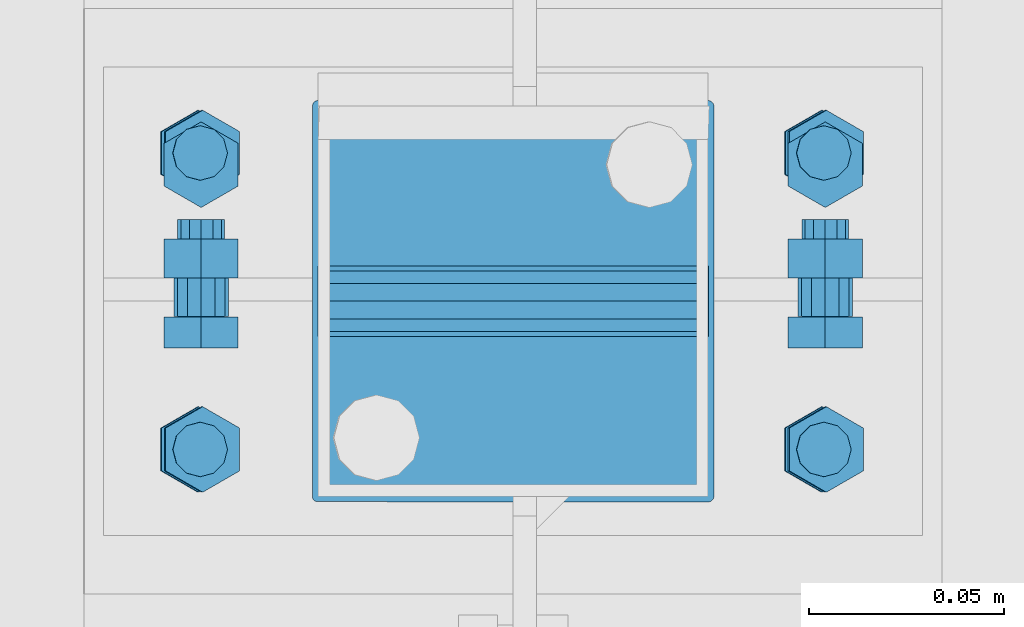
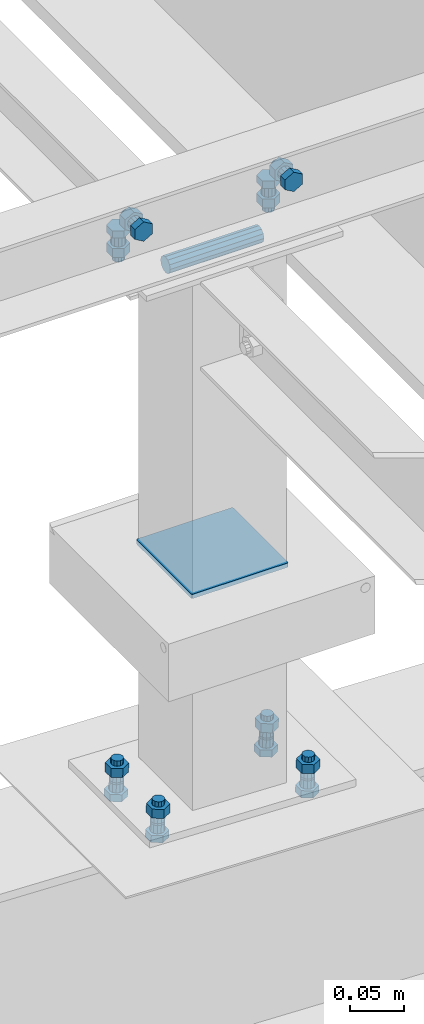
# One storey, part 17 of 3134: 6 mechanical fasteners, 3 elements without a shape of their own.
"""IFC2X3 building model written with IfcOpenShell, lengths in millimetres."""

from ifc_helpers import new_model, si_unit, frame, origin_with_axes, place, context, subcontext, project, spatial, faceted_brep, source, transform, mapped, material, type_object, element, aggregate, save


model = new_model("IFC2X3")

# Units and contexts
model_context = context("Model", 3, precision=1e-05, world=origin_with_axes())
body_context = subcontext(model_context, "Body", "Model", "MODEL_VIEW")
ifc_project = project(units=[si_unit("LENGTHUNIT", "METRE", prefix="MILLI"), si_unit("AREAUNIT", "SQUARE_METRE"), si_unit("VOLUMEUNIT", "CUBIC_METRE"), si_unit("MASSUNIT", "GRAM", prefix="KILO"), si_unit("TIMEUNIT", "SECOND"), si_unit("PLANEANGLEUNIT", "RADIAN"), si_unit("SOLIDANGLEUNIT", "STERADIAN"), si_unit("THERMODYNAMICTEMPERATUREUNIT", "DEGREE_CELSIUS"), si_unit("LUMINOUSINTENSITYUNIT", "LUMEN")], contexts=[model_context])

# Site, building, storey
site_placement = place(None, origin_with_axes())
site = spatial("IfcSite", under=ifc_project, at=site_placement, CompositionType="ELEMENT")
building_placement = place(site_placement, origin_with_axes())
building = spatial("IfcBuilding", under=site, at=building_placement, Name="Undefined", CompositionType="ELEMENT")
storey_placement = place(building_placement, origin_with_axes())
storey = spatial("IfcBuildingStorey", under=building, at=storey_placement, Name="Undefined", CompositionType="ELEMENT", Elevation=0.0)

# Assembly, mechanical fastener
assembly_1_placement = place(storey_placement, origin_with_axes())
assembly_1 = element("IfcElementAssembly", 1, at=assembly_1_placement, inside=storey, AssemblyPlace="NOTDEFINED", PredefinedType="RIGID_FRAME")
ifc_material_1 = material(Name="8.8")
mechanical_fastener_type = type_object("IfcMechanicalFastenerType", Name="Bolt assembly")
shared_shape_1 = source(origin_with_axes(), body_context, "Body", "Brep", [
    faceted_brep([(10.9696551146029, -14.0, 0.0), (5.48482755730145, -14.0, 9.5), (-5.48482755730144, -14.0, 9.5), (-10.9696551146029, -14.0, 1.34339530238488e-15), (-5.48482755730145, -14.0, -9.5), (5.48482755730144, -14.0, -9.50000000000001), (5.48482755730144, -6.0, -9.50000000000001), (-5.48482755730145, -6.0, -9.5), (-10.9696551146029, -6.0, 1.34339530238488e-15), (-5.48482755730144, -6.0, 9.5), (5.48482755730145, -6.0, 9.5), (10.9696551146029, -6.0, 0.0), (6.0, -6.0, 0.0), (5.19615242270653, -6.0, 3.00000000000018), (2.99999999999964, -6.0, 5.19615242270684), (-6.21801588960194e-13, -6.0, 6.0), (-3.00000000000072, -6.0, 5.19615242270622), (-5.19615242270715, -6.0, 2.9999999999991), (-6.0, -6.0, -1.24360317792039e-12), (-5.19615242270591, -6.0, -3.00000000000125), (-2.99999999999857, -6.0, -5.19615242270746), (1.85874342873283e-12, -6.0, -6.0), (3.00000000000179, -6.0, -5.1961524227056), (5.19615242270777, -6.0, -2.99999999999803), (5.19615242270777, 24.0, -2.99999999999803), (3.00000000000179, 24.0, -5.1961524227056), (1.85874342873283e-12, 24.0, -6.0), (-2.99999999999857, 24.0, -5.19615242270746), (-5.19615242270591, 24.0, -3.00000000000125), (-6.0, 24.0, -1.24360317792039e-12), (-5.19615242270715, 24.0, 2.9999999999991), (-3.00000000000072, 24.0, 5.19615242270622), (-6.21801588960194e-13, 24.0, 6.0), (2.99999999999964, 24.0, 5.19615242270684), (5.19615242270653, 24.0, 3.00000000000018), (6.0, 24.0, 0.0), (10.9696551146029, 6.00000000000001, 0.0), (5.48482755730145, 6.00000000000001, 9.5), (-5.48482755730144, 6.00000000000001, 9.5), (-10.9696551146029, 6.00000000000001, 1.34339530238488e-15), (-5.48482755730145, 6.00000000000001, -9.5), (5.48482755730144, 6.00000000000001, -9.50000000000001), (5.48482755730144, 16.0, -9.50000000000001), (-5.48482755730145, 16.0, -9.5), (-10.9696551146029, 16.0, 1.34339530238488e-15), (-5.48482755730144, 16.0, 9.5), (5.48482755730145, 16.0, 9.5), (10.9696551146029, 16.0, 0.0)], [[[0, 1, 2, 3, 4, 5]], [[6, 7, 8, 9, 10, 11]], [[0, 11, 10, 1]], [[1, 10, 9, 2]], [[2, 9, 8, 3]], [[3, 8, 7, 4]], [[4, 7, 6, 5]], [[5, 6, 11, 0]], [[12, 13, 14, 15, 16, 17, 18, 19, 20, 21, 22, 23]], [[24, 25, 26, 27, 28, 29, 30, 31, 32, 33, 34, 35]], [[12, 35, 34, 13]], [[13, 34, 33, 14]], [[14, 33, 32, 15]], [[15, 32, 31, 16]], [[16, 31, 30, 17]], [[17, 30, 29, 18]], [[18, 29, 28, 19]], [[19, 28, 27, 20]], [[20, 27, 26, 21]], [[21, 26, 25, 22]], [[22, 25, 24, 23]], [[23, 24, 35, 12]], [[36, 37, 38, 39, 40, 41]], [[42, 43, 44, 45, 46, 47]], [[36, 47, 46, 37]], [[37, 46, 45, 38]], [[38, 45, 44, 39]], [[39, 44, 43, 40]], [[40, 43, 42, 41]], [[41, 42, 47, 36]]]),
    faceted_brep([(7.0, -0.1, 0.0), (6.06217782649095, -0.1, 3.50000000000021), (3.49999999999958, -0.1, 6.06217782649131), (-7.25435187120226e-13, -0.1, 7.0), (-3.50000000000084, -0.1, 6.06217782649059), (-6.06217782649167, -0.1, 3.49999999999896), (-7.0, -0.1, -1.45087037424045e-12), (-6.06217782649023, -0.1, -3.50000000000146), (-3.49999999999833, -0.1, -6.06217782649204), (2.1685340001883e-12, -0.1, -7.0), (3.50000000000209, -0.1, -6.06217782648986), (6.0621778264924, -0.1, -3.4999999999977), (6.0621778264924, 6.00000000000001, -3.4999999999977), (3.50000000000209, 6.00000000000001, -6.06217782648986), (2.1685340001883e-12, 6.00000000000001, -7.0), (-3.49999999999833, 6.00000000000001, -6.06217782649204), (-6.06217782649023, 6.00000000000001, -3.50000000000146), (-7.0, 6.00000000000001, -1.45087037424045e-12), (-6.06217782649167, 6.00000000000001, 3.49999999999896), (-3.50000000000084, 6.00000000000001, 6.06217782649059), (-7.25435187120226e-13, 6.00000000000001, 7.0), (3.49999999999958, 6.00000000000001, 6.06217782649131), (6.06217782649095, 6.00000000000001, 3.50000000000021), (7.0, 6.00000000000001, 0.0), (7.0, -5.9, 0.0), (6.06217782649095, -5.9, 3.50000000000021), (3.49999999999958, -5.9, 6.06217782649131), (-7.25435187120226e-13, -5.9, 7.0), (-3.50000000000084, -5.9, 6.06217782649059), (-6.06217782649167, -5.9, 3.49999999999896), (-7.0, -5.9, -1.45087037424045e-12), (-6.06217782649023, -5.9, -3.50000000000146), (-3.49999999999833, -5.9, -6.06217782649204), (2.1685340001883e-12, -5.9, -7.0), (3.50000000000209, -5.9, -6.06217782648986), (6.0621778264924, -5.9, -3.4999999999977), (6.0621778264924, 0.0999999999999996, -3.4999999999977), (3.50000000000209, 0.0999999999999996, -6.06217782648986), (2.1685340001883e-12, 0.0999999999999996, -7.0), (-3.49999999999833, 0.0999999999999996, -6.06217782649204), (-6.06217782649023, 0.0999999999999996, -3.50000000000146), (-7.0, 0.0999999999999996, -1.45087037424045e-12), (-6.06217782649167, 0.0999999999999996, 3.49999999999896), (-3.50000000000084, 0.0999999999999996, 6.06217782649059), (-7.25435187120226e-13, 0.0999999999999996, 7.0), (3.49999999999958, 0.0999999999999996, 6.06217782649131), (6.06217782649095, 0.0999999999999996, 3.50000000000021), (7.0, 0.0999999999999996, 0.0)], [[[0, 1, 2, 3, 4, 5, 6, 7, 8, 9, 10, 11]], [[12, 13, 14, 15, 16, 17, 18, 19, 20, 21, 22, 23]], [[0, 23, 22, 1]], [[1, 22, 21, 2]], [[2, 21, 20, 3]], [[3, 20, 19, 4]], [[4, 19, 18, 5]], [[5, 18, 17, 6]], [[6, 17, 16, 7]], [[7, 16, 15, 8]], [[8, 15, 14, 9]], [[9, 14, 13, 10]], [[10, 13, 12, 11]], [[11, 12, 23, 0]], [[24, 25, 26, 27, 28, 29, 30, 31, 32, 33, 34, 35]], [[36, 37, 38, 39, 40, 41, 42, 43, 44, 45, 46, 47]], [[24, 47, 46, 25]], [[25, 46, 45, 26]], [[26, 45, 44, 27]], [[27, 44, 43, 28]], [[28, 43, 42, 29]], [[29, 42, 41, 30]], [[30, 41, 40, 31]], [[31, 40, 39, 32]], [[32, 39, 38, 33]], [[33, 38, 37, 34]], [[34, 37, 36, 35]], [[35, 36, 47, 24]]]),
])
mechanical_fastener_1_placement = place(assembly_1_placement, frame((8340.0, 13095.0, 4365.0), z_axis=(1.0, 0.0, 0.0), x_axis=(0.0, -1.0, 0.0)))
mechanical_fastener_1 = element("IfcMechanicalFastener", 2, at=mechanical_fastener_1_placement, type_object=mechanical_fastener_type, material=ifc_material_1, Name="Bolt assembly", NominalDiameter=12.0, NominalLength=30.0, context=body_context, shape_type="MappedRepresentation", body=[
    mapped(shared_shape_1, transform((0.0, -5.32963895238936e-10, -79.9999999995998))),
    mapped(shared_shape_1, transform((0.0, 5.3114490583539e-10, 79.9999999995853))),
])

assembly_2_placement = place(storey_placement, origin_with_axes())
assembly_2 = element("IfcElementAssembly", 3, at=assembly_2_placement, inside=storey, AssemblyPlace="NOTDEFINED", PredefinedType="RIGID_FRAME")
shared_shape_2 = source(origin_with_axes(), body_context, "Body", "Brep", [
    faceted_brep([(10.9696551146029, -4.18346828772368, 0.0), (5.48482755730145, -4.18346828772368, 9.5), (-5.48482755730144, -4.18346828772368, 9.5), (-10.9696551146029, -4.18346828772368, 1.34339530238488e-15), (-5.48482755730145, -4.18346828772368, -9.5), (5.48482755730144, -4.18346828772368, -9.50000000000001), (5.48482755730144, 3.81653171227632, -9.50000000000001), (-5.48482755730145, 3.81653171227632, -9.5), (-10.9696551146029, 3.81653171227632, 1.34339530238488e-15), (-5.48482755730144, 3.81653171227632, 9.5), (5.48482755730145, 3.81653171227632, 9.5), (10.9696551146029, 3.81653171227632, 0.0), (6.0, 3.81653171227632, 0.0), (5.19615242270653, 3.81653171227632, 3.00000000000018), (2.99999999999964, 3.81653171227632, 5.19615242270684), (-6.21801588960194e-13, 3.81653171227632, 6.0), (-3.00000000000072, 3.81653171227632, 5.19615242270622), (-5.19615242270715, 3.81653171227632, 2.9999999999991), (-6.0, 3.81653171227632, -1.24360317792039e-12), (-5.19615242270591, 3.81653171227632, -3.00000000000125), (-2.99999999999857, 3.81653171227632, -5.19615242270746), (1.85874342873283e-12, 3.81653171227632, -6.0), (3.00000000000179, 3.81653171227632, -5.1961524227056), (5.19615242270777, 3.81653171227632, -2.99999999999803), (5.19615242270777, 38.8165317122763, -2.99999999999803), (3.00000000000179, 38.8165317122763, -5.1961524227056), (1.85874342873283e-12, 38.8165317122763, -6.0), (-2.99999999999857, 38.8165317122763, -5.19615242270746), (-5.19615242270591, 38.8165317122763, -3.00000000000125), (-6.0, 38.8165317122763, -1.24360317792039e-12), (-5.19615242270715, 38.8165317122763, 2.9999999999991), (-3.00000000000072, 38.8165317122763, 5.19615242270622), (-6.21801588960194e-13, 38.8165317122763, 6.0), (2.99999999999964, 38.8165317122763, 5.19615242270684), (5.19615242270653, 38.8165317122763, 3.00000000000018), (6.0, 38.8165317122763, 0.0), (10.9696551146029, 23.0139082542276, 0.0), (5.48482755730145, 23.0139082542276, 9.5), (-5.48482755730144, 23.0139082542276, 9.5), (-10.9696551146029, 23.0139082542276, 1.34339530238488e-15), (-5.48482755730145, 23.0139082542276, -9.5), (5.48482755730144, 23.0139082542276, -9.50000000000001), (5.48482755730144, 33.0139082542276, -9.50000000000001), (-5.48482755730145, 33.0139082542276, -9.5), (-10.9696551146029, 33.0139082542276, 1.34339530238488e-15), (-5.48482755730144, 33.0139082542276, 9.5), (5.48482755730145, 33.0139082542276, 9.5), (10.9696551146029, 33.0139082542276, 0.0)], [[[0, 1, 2, 3, 4, 5]], [[6, 7, 8, 9, 10, 11]], [[0, 11, 10, 1]], [[1, 10, 9, 2]], [[2, 9, 8, 3]], [[3, 8, 7, 4]], [[4, 7, 6, 5]], [[5, 6, 11, 0]], [[12, 13, 14, 15, 16, 17, 18, 19, 20, 21, 22, 23]], [[24, 25, 26, 27, 28, 29, 30, 31, 32, 33, 34, 35]], [[12, 35, 34, 13]], [[13, 34, 33, 14]], [[14, 33, 32, 15]], [[15, 32, 31, 16]], [[16, 31, 30, 17]], [[17, 30, 29, 18]], [[18, 29, 28, 19]], [[19, 28, 27, 20]], [[20, 27, 26, 21]], [[21, 26, 25, 22]], [[22, 25, 24, 23]], [[23, 24, 35, 12]], [[36, 37, 38, 39, 40, 41]], [[42, 43, 44, 45, 46, 47]], [[36, 47, 46, 37]], [[37, 46, 45, 38]], [[38, 45, 44, 39]], [[39, 44, 43, 40]], [[40, 43, 42, 41]], [[41, 42, 47, 36]]]),
    faceted_brep([(7.0, 3.91653171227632, 0.0), (6.06217782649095, 3.91653171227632, 3.50000000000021), (3.49999999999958, 3.91653171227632, 6.06217782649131), (-7.25435187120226e-13, 3.91653171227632, 7.0), (-3.50000000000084, 3.91653171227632, 6.06217782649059), (-6.06217782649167, 3.91653171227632, 3.49999999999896), (-7.0, 3.91653171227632, -1.45087037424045e-12), (-6.06217782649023, 3.91653171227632, -3.50000000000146), (-3.49999999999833, 3.91653171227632, -6.06217782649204), (2.1685340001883e-12, 3.91653171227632, -7.0), (3.50000000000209, 3.91653171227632, -6.06217782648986), (6.0621778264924, 3.91653171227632, -3.4999999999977), (6.0621778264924, 13.1165315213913, -3.4999999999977), (3.50000000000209, 13.1165315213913, -6.06217782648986), (2.1685340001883e-12, 13.1165315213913, -7.0), (-3.49999999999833, 13.1165315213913, -6.06217782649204), (-6.06217782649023, 13.1165315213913, -3.50000000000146), (-7.0, 13.1165315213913, -1.45087037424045e-12), (-6.06217782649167, 13.1165315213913, 3.49999999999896), (-3.50000000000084, 13.1165315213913, 6.06217782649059), (-7.25435187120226e-13, 13.1165315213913, 7.0), (3.49999999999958, 13.1165315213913, 6.06217782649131), (6.06217782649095, 13.1165315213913, 3.50000000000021), (7.0, 13.1165315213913, 0.0), (7.0, 14.9139082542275, 0.0), (6.06217782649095, 14.9139082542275, 3.50000000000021), (3.49999999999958, 14.9139082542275, 6.06217782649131), (-7.25435187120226e-13, 14.9139082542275, 7.0), (-3.50000000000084, 14.9139082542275, 6.06217782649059), (-6.06217782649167, 14.9139082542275, 3.49999999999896), (-7.0, 14.9139082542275, -1.45087037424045e-12), (-6.06217782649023, 14.9139082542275, -3.50000000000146), (-3.49999999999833, 14.9139082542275, -6.06217782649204), (2.1685340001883e-12, 14.9139082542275, -7.0), (3.50000000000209, 14.9139082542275, -6.06217782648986), (6.0621778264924, 14.9139082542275, -3.4999999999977), (6.0621778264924, 23.0139082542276, -3.4999999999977), (3.50000000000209, 23.0139082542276, -6.06217782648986), (2.1685340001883e-12, 23.0139082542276, -7.0), (-3.49999999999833, 23.0139082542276, -6.06217782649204), (-6.06217782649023, 23.0139082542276, -3.50000000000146), (-7.0, 23.0139082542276, -1.45087037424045e-12), (-6.06217782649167, 23.0139082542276, 3.49999999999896), (-3.50000000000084, 23.0139082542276, 6.06217782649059), (-7.25435187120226e-13, 23.0139082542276, 7.0), (3.49999999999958, 23.0139082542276, 6.06217782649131), (6.06217782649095, 23.0139082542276, 3.50000000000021), (7.0, 23.0139082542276, 0.0)], [[[0, 1, 2, 3, 4, 5, 6, 7, 8, 9, 10, 11]], [[12, 13, 14, 15, 16, 17, 18, 19, 20, 21, 22, 23]], [[0, 23, 22, 1]], [[1, 22, 21, 2]], [[2, 21, 20, 3]], [[3, 20, 19, 4]], [[4, 19, 18, 5]], [[5, 18, 17, 6]], [[6, 17, 16, 7]], [[7, 16, 15, 8]], [[8, 15, 14, 9]], [[9, 14, 13, 10]], [[10, 13, 12, 11]], [[11, 12, 23, 0]], [[24, 25, 26, 27, 28, 29, 30, 31, 32, 33, 34, 35]], [[36, 37, 38, 39, 40, 41, 42, 43, 44, 45, 46, 47]], [[24, 47, 46, 25]], [[25, 46, 45, 26]], [[26, 45, 44, 27]], [[27, 44, 43, 28]], [[28, 43, 42, 29]], [[29, 42, 41, 30]], [[30, 41, 40, 31]], [[31, 40, 39, 32]], [[32, 39, 38, 33]], [[33, 38, 37, 34]], [[34, 37, 36, 35]], [[35, 36, 47, 24]]]),
])
mechanical_fastener_2_placement = place(assembly_2_placement, frame((8339.1931765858, 13097.9999999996, 3735.10000668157), z_axis=(-0.999387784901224, 0.0, 0.0349865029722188), x_axis=(0.0, -1.0, 0.0)))
mechanical_fastener_2 = element("IfcMechanicalFastener", 4, at=mechanical_fastener_2_placement, type_object=mechanical_fastener_type, material=ifc_material_1, Name="Bolt assembly", NominalDiameter=12.0, NominalLength=35.0, context=body_context, shape_type="MappedRepresentation", body=[
    mapped(shared_shape_2, transform((0.0, -5.32963895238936e-10, -79.9999999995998))),
    mapped(shared_shape_2, transform((76.0, -5.32963895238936e-10, -79.9999999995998))),
    mapped(shared_shape_2, transform((0.0, 5.3114490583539e-10, 79.9999999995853))),
    mapped(shared_shape_2, transform((76.0, 5.3114490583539e-10, 79.9999999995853))),
])

assembly_3_placement = place(storey_placement, origin_with_axes())
assembly_3 = element("IfcElementAssembly", 5, at=assembly_3_placement, inside=storey, AssemblyPlace="NOTDEFINED", PredefinedType="RIGID_FRAME")
shared_shape_3 = source(origin_with_axes(), body_context, "Body", "Brep", [
    faceted_brep([(7.0, 13.0000253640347, 0.0), (6.06217782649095, 13.0000253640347, 3.50000000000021), (3.49999999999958, 13.0000253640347, 6.06217782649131), (-7.25435187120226e-13, 13.0000253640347, 7.0), (-3.50000000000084, 13.0000253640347, 6.06217782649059), (-6.06217782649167, 13.0000253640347, 3.49999999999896), (-7.0, 13.0000253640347, -1.45087037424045e-12), (-6.06217782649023, 13.0000253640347, -3.50000000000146), (-3.49999999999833, 13.0000253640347, -6.06217782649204), (2.1685340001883e-12, 13.0000253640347, -7.0), (3.50000000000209, 13.0000253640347, -6.06217782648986), (6.0621778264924, 13.0000253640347, -3.4999999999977), (6.0621778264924, 15.0999999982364, -3.4999999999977), (3.50000000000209, 15.0999999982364, -6.06217782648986), (2.1685340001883e-12, 15.0999999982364, -7.0), (-3.49999999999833, 15.0999999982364, -6.06217782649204), (-6.06217782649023, 15.0999999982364, -3.50000000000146), (-7.0, 15.0999999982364, -1.45087037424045e-12), (-6.06217782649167, 15.0999999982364, 3.49999999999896), (-3.50000000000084, 15.0999999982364, 6.06217782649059), (-7.25435187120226e-13, 15.0999999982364, 7.0), (3.49999999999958, 15.0999999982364, 6.06217782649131), (6.06217782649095, 15.0999999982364, 3.50000000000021), (7.0, 15.0999999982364, 0.0)], [[[0, 1, 2, 3, 4, 5, 6, 7, 8, 9, 10, 11]], [[12, 13, 14, 15, 16, 17, 18, 19, 20, 21, 22, 23]], [[0, 23, 22, 1]], [[1, 22, 21, 2]], [[2, 21, 20, 3]], [[3, 20, 19, 4]], [[4, 19, 18, 5]], [[5, 18, 17, 6]], [[6, 17, 16, 7]], [[7, 16, 15, 8]], [[8, 15, 14, 9]], [[9, 14, 13, 10]], [[10, 13, 12, 11]], [[11, 12, 23, 0]]]),
])
mechanical_fastener_3_placement = place(assembly_3_placement, frame((8339.1931765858, 13097.9999999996, 3735.10000668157), z_axis=(-0.999387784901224, 0.0, 0.0349865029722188), x_axis=(0.0, -1.0, 0.0)))
mechanical_fastener_3 = element("IfcMechanicalFastener", 6, at=mechanical_fastener_3_placement, type_object=mechanical_fastener_type, material=ifc_material_1, Name="Bolt assembly", NominalDiameter=12.0, NominalLength=2.0, context=body_context, shape_type="MappedRepresentation", body=[
    mapped(shared_shape_3, transform((0.0, -5.32963895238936e-10, -79.9999999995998))),
    mapped(shared_shape_3, transform((76.0, -5.32963895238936e-10, -79.9999999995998))),
    mapped(shared_shape_3, transform((0.0, 5.3114490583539e-10, 79.9999999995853))),
    mapped(shared_shape_3, transform((76.0, 5.3114490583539e-10, 79.9999999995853))),
])
aggregate(assembly_3, [mechanical_fastener_3])

# Mechanical fastener
shared_shape_4 = source(origin_with_axes(), body_context, "Body", "Brep", [
    faceted_brep([(9.0, -50.0, 0.0), (7.79422863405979, -50.0, 4.50000000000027), (4.49999999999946, -50.0, 7.79422863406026), (-9.3270238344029e-13, -50.0, 9.0), (-4.50000000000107, -50.0, 7.79422863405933), (-7.79422863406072, -50.0, 4.49999999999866), (-9.0, -50.0, -1.86540476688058e-12), (-7.79422863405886, -50.0, -4.50000000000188), (-4.49999999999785, -50.0, -7.79422863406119), (2.78811514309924e-12, -50.0, -9.0), (4.50000000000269, -50.0, -7.7942286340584), (7.79422863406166, -50.0, -4.49999999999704), (7.79422863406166, 50.1, -4.49999999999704), (4.50000000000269, 50.1, -7.7942286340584), (2.78811514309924e-12, 50.1, -9.0), (-4.49999999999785, 50.1, -7.79422863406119), (-7.79422863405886, 50.1, -4.50000000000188), (-9.0, 50.1, -1.86540476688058e-12), (-7.79422863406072, 50.1, 4.49999999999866), (-4.50000000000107, 50.1, 7.79422863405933), (-9.3270238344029e-13, 50.1, 9.0), (4.49999999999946, 50.1, 7.79422863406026), (7.79422863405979, 50.1, 4.50000000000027), (9.0, 50.1, 0.0)], [[[0, 1, 2, 3, 4, 5, 6, 7, 8, 9, 10, 11]], [[12, 13, 14, 15, 16, 17, 18, 19, 20, 21, 22, 23]], [[0, 23, 22, 1]], [[1, 22, 21, 2]], [[2, 21, 20, 3]], [[3, 20, 19, 4]], [[4, 19, 18, 5]], [[5, 18, 17, 6]], [[6, 17, 16, 7]], [[7, 16, 15, 8]], [[8, 15, 14, 9]], [[9, 14, 13, 10]], [[10, 13, 12, 11]], [[11, 12, 23, 0]]]),
])
mechanical_fastener_4_placement = place(assembly_2_placement, frame((8340.0, 13060.0, 4345.0), z_axis=(0.0, 1.0, 0.0), x_axis=(0.0, 0.0, 1.0)))
mechanical_fastener_4 = element("IfcMechanicalFastener", 7, at=mechanical_fastener_4_placement, type_object=mechanical_fastener_type, material=ifc_material_1, Name="Bolt assembly", NominalDiameter=16.0, NominalLength=100.0, context=body_context, shape_type="MappedRepresentation", body=[
    mapped(shared_shape_4, transform((0.0, 0.0, 0.0))),
])

ifc_material_2 = material(Name="6.8")
shared_shape_5 = source(origin_with_axes(), body_context, "Body", "Brep", [
    faceted_brep([(51.5, 1.36424205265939e-12, 50.0), (51.3858192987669, 1.36424205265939e-12, 50.5740251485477), (51.0606601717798, 1.36424205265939e-12, 51.0606601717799), (50.5740251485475, 1.36424205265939e-12, 51.385819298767), (-50.0000000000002, 1.36424205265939e-12, 51.5), (-50.7500000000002, 1.36424205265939e-12, 51.2990381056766), (-51.2990381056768, 1.36424205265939e-12, 50.7499999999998), (-51.5, 1.36424205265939e-12, 49.9999999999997), (-51.5, 1.36424205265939e-12, -50.0000000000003), (-51.2990381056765, 1.36424205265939e-12, -50.7500000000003), (-50.7499999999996, 1.36424205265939e-12, -51.2990381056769), (-49.9999999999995, 1.36424205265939e-12, -51.5), (50.0000000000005, 1.36424205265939e-12, -51.5), (50.7500000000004, 1.36424205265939e-12, -51.2990381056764), (51.2990381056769, 1.36424205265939e-12, -50.7499999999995), (51.5, 1.36424205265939e-12, -49.9999999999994), (51.5, 5.10000000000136, -49.9999999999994), (51.2990381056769, 5.10000000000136, -50.7499999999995), (50.7500000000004, 5.10000000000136, -51.2990381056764), (50.0000000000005, 5.10000000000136, -51.5), (-49.9999999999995, 5.10000000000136, -51.5), (-50.7499999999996, 5.10000000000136, -51.2990381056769), (-51.2990381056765, 5.10000000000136, -50.7500000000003), (-51.5, 5.10000000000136, -50.0000000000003), (-51.5, 5.10000000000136, 49.9999999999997), (-51.2990381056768, 5.10000000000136, 50.7499999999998), (-50.7500000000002, 5.10000000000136, 51.2990381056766), (-50.0000000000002, 5.10000000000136, 51.5), (50.5740251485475, 5.10000000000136, 51.385819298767), (51.0606601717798, 5.10000000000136, 51.0606601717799), (51.3858192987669, 5.10000000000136, 50.5740251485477), (51.5, 5.10000000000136, 50.0)], [[[0, 1, 2, 3, 4, 5, 6, 7, 8, 9, 10, 11, 12, 13, 14, 15]], [[16, 17, 18, 19, 20, 21, 22, 23, 24, 25, 26, 27, 28, 29, 30, 31]], [[0, 31, 30, 1]], [[1, 30, 29, 2]], [[2, 29, 28, 3]], [[3, 28, 27, 4]], [[4, 27, 26, 5]], [[5, 26, 25, 6]], [[6, 25, 24, 7]], [[7, 24, 23, 8]], [[8, 23, 22, 9]], [[9, 22, 21, 10]], [[10, 21, 20, 11]], [[11, 20, 19, 12]], [[12, 19, 18, 13]], [[13, 18, 17, 14]], [[14, 17, 16, 15]], [[15, 16, 31, 0]]]),
])
mechanical_fastener_5_placement = place(assembly_2_placement, frame((8340.0, 13060.0, 4004.89), z_axis=(0.0, -1.0, 0.0), x_axis=(-1.0, 0.0, 0.0)))
mechanical_fastener_5 = element("IfcMechanicalFastener", 8, at=mechanical_fastener_5_placement, type_object=mechanical_fastener_type, material=ifc_material_2, Name="Bolt assembly", NominalDiameter=10.0, NominalLength=5.0, context=body_context, shape_type="MappedRepresentation", body=[
    mapped(shared_shape_5, transform((0.0, 0.0, 0.0))),
])

aggregate(assembly_2, [mechanical_fastener_4, mechanical_fastener_5, mechanical_fastener_2])

shared_shape_6 = source(origin_with_axes(), body_context, "Body", "Brep", [
    faceted_brep([(10.9696551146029, -12.0, 0.0), (5.48482755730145, -12.0, 9.5), (-5.48482755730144, -12.0, 9.5), (-10.9696551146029, -12.0, 1.34339530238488e-15), (-5.48482755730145, -12.0, -9.5), (5.48482755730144, -12.0, -9.50000000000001), (5.48482755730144, -4.0, -9.50000000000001), (-5.48482755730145, -4.0, -9.5), (-10.9696551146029, -4.0, 1.34339530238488e-15), (-5.48482755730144, -4.0, 9.5), (5.48482755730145, -4.0, 9.5), (10.9696551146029, -4.0, 0.0), (6.0, -4.0, 0.0), (5.19615242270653, -4.0, 3.00000000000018), (2.99999999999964, -4.0, 5.19615242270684), (-6.21801588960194e-13, -4.0, 6.0), (-3.00000000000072, -4.0, 5.19615242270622), (-5.19615242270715, -4.0, 2.9999999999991), (-6.0, -4.0, -1.24360317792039e-12), (-5.19615242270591, -4.0, -3.00000000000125), (-2.99999999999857, -4.0, -5.19615242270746), (1.85874342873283e-12, -4.0, -6.0), (3.00000000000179, -4.0, -5.1961524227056), (5.19615242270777, -4.0, -2.99999999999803), (5.19615242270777, 21.0, -2.99999999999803), (3.00000000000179, 21.0, -5.1961524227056), (1.85874342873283e-12, 21.0, -6.0), (-2.99999999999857, 21.0, -5.19615242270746), (-5.19615242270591, 21.0, -3.00000000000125), (-6.0, 21.0, -1.24360317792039e-12), (-5.19615242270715, 21.0, 2.9999999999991), (-3.00000000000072, 21.0, 5.19615242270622), (-6.21801588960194e-13, 21.0, 6.0), (2.99999999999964, 21.0, 5.19615242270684), (5.19615242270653, 21.0, 3.00000000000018), (6.0, 21.0, 0.0), (10.9696551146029, 6.00000000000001, 0.0), (5.48482755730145, 6.00000000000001, 9.5), (-5.48482755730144, 6.00000000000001, 9.5), (-10.9696551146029, 6.00000000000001, 1.34339530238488e-15), (-5.48482755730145, 6.00000000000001, -9.5), (5.48482755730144, 6.00000000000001, -9.50000000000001), (5.48482755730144, 16.0, -9.50000000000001), (-5.48482755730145, 16.0, -9.5), (-10.9696551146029, 16.0, 1.34339530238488e-15), (-5.48482755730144, 16.0, 9.5), (5.48482755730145, 16.0, 9.5), (10.9696551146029, 16.0, 0.0)], [[[0, 1, 2, 3, 4, 5]], [[6, 7, 8, 9, 10, 11]], [[0, 11, 10, 1]], [[1, 10, 9, 2]], [[2, 9, 8, 3]], [[3, 8, 7, 4]], [[4, 7, 6, 5]], [[5, 6, 11, 0]], [[12, 13, 14, 15, 16, 17, 18, 19, 20, 21, 22, 23]], [[24, 25, 26, 27, 28, 29, 30, 31, 32, 33, 34, 35]], [[12, 35, 34, 13]], [[13, 34, 33, 14]], [[14, 33, 32, 15]], [[15, 32, 31, 16]], [[16, 31, 30, 17]], [[17, 30, 29, 18]], [[18, 29, 28, 19]], [[19, 28, 27, 20]], [[20, 27, 26, 21]], [[21, 26, 25, 22]], [[22, 25, 24, 23]], [[23, 24, 35, 12]], [[36, 37, 38, 39, 40, 41]], [[42, 43, 44, 45, 46, 47]], [[36, 47, 46, 37]], [[37, 46, 45, 38]], [[38, 45, 44, 39]], [[39, 44, 43, 40]], [[40, 43, 42, 41]], [[41, 42, 47, 36]]]),
    faceted_brep([(7.0, -3.9, 0.0), (6.06217782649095, -3.9, 3.50000000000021), (3.49999999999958, -3.9, 6.06217782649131), (-7.25435187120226e-13, -3.9, 7.0), (-3.50000000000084, -3.9, 6.06217782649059), (-6.06217782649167, -3.9, 3.49999999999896), (-7.0, -3.9, -1.45087037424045e-12), (-6.06217782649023, -3.9, -3.50000000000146), (-3.49999999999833, -3.9, -6.06217782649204), (2.1685340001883e-12, -3.9, -7.0), (3.50000000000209, -3.9, -6.06217782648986), (6.0621778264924, -3.9, -3.4999999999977), (6.0621778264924, 0.0999999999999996, -3.4999999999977), (3.50000000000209, 0.0999999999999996, -6.06217782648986), (2.1685340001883e-12, 0.0999999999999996, -7.0), (-3.49999999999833, 0.0999999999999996, -6.06217782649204), (-6.06217782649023, 0.0999999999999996, -3.50000000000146), (-7.0, 0.0999999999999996, -1.45087037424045e-12), (-6.06217782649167, 0.0999999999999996, 3.49999999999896), (-3.50000000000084, 0.0999999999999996, 6.06217782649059), (-7.25435187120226e-13, 0.0999999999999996, 7.0), (3.49999999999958, 0.0999999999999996, 6.06217782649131), (6.06217782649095, 0.0999999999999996, 3.50000000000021), (7.0, 0.0999999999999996, 0.0), (7.0, -0.1, 0.0), (6.06217782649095, -0.1, 3.50000000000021), (3.49999999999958, -0.1, 6.06217782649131), (-7.25435187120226e-13, -0.1, 7.0), (-3.50000000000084, -0.1, 6.06217782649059), (-6.06217782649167, -0.1, 3.49999999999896), (-7.0, -0.1, -1.45087037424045e-12), (-6.06217782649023, -0.1, -3.50000000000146), (-3.49999999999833, -0.1, -6.06217782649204), (2.1685340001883e-12, -0.1, -7.0), (3.50000000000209, -0.1, -6.06217782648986), (6.0621778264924, -0.1, -3.4999999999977), (6.0621778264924, 6.00000000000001, -3.4999999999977), (3.50000000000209, 6.00000000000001, -6.06217782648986), (2.1685340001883e-12, 6.00000000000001, -7.0), (-3.49999999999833, 6.00000000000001, -6.06217782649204), (-6.06217782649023, 6.00000000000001, -3.50000000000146), (-7.0, 6.00000000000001, -1.45087037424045e-12), (-6.06217782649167, 6.00000000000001, 3.49999999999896), (-3.50000000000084, 6.00000000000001, 6.06217782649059), (-7.25435187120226e-13, 6.00000000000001, 7.0), (3.49999999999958, 6.00000000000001, 6.06217782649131), (6.06217782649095, 6.00000000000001, 3.50000000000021), (7.0, 6.00000000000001, 0.0)], [[[0, 1, 2, 3, 4, 5, 6, 7, 8, 9, 10, 11]], [[12, 13, 14, 15, 16, 17, 18, 19, 20, 21, 22, 23]], [[0, 23, 22, 1]], [[1, 22, 21, 2]], [[2, 21, 20, 3]], [[3, 20, 19, 4]], [[4, 19, 18, 5]], [[5, 18, 17, 6]], [[6, 17, 16, 7]], [[7, 16, 15, 8]], [[8, 15, 14, 9]], [[9, 14, 13, 10]], [[10, 13, 12, 11]], [[11, 12, 23, 0]], [[24, 25, 26, 27, 28, 29, 30, 31, 32, 33, 34, 35]], [[36, 37, 38, 39, 40, 41, 42, 43, 44, 45, 46, 47]], [[24, 47, 46, 25]], [[25, 46, 45, 26]], [[26, 45, 44, 27]], [[27, 44, 43, 28]], [[28, 43, 42, 29]], [[29, 42, 41, 30]], [[30, 41, 40, 31]], [[31, 40, 39, 32]], [[32, 39, 38, 33]], [[33, 38, 37, 34]], [[34, 37, 36, 35]], [[35, 36, 47, 24]]]),
])
mechanical_fastener_6_placement = place(assembly_1_placement, frame((8340.0, 13060.0, 4400.0), z_axis=(1.0, 0.0, 0.0), x_axis=(0.0, 0.0, -1.0)))
mechanical_fastener_6 = element("IfcMechanicalFastener", 9, at=mechanical_fastener_6_placement, type_object=mechanical_fastener_type, material=ifc_material_1, Name="Bolt assembly", NominalDiameter=12.0, NominalLength=25.0, context=body_context, shape_type="MappedRepresentation", body=[
    mapped(shared_shape_6, transform((0.0, -5.32963895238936e-10, -79.9999999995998))),
    mapped(shared_shape_6, transform((0.0, 5.3114490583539e-10, 79.9999999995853))),
])

aggregate(assembly_1, [mechanical_fastener_6, mechanical_fastener_1])

save(model, "model.ifc")
